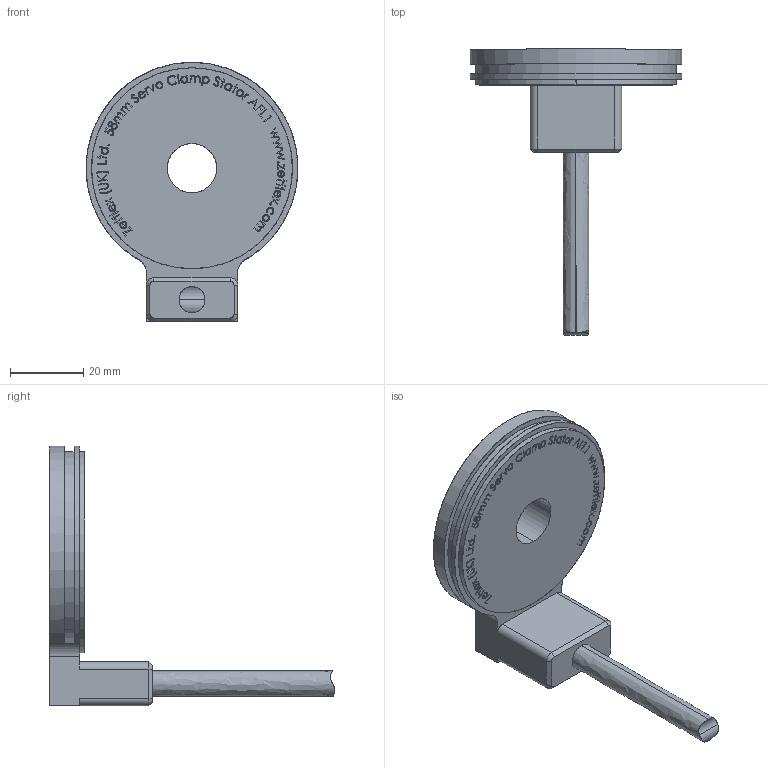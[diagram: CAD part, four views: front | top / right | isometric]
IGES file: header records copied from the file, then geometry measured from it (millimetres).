
Start section: SolidWorks IGES file using analytic representation for surfaces
Global section: file name: C:\Zettlex Data\Mechanical Drawings\1615\58mm Servo Clamp Stator AFL1 Rev 1-0.IGS; native system: SolidWorks 2015; preprocessor: SolidWorks 2015; author: Nigel; date: 150908.085917; units: millimetre
Bounding box: 58 x 78.2 x 71 mm (x, y, z)
Surface area: 11072.3 mm2 (no closed solid volume)
Topology: 0 solids, 0 shells, 726 faces, 8454 edges, 8454 vertices
Faces by surface type: bspline 696, revolution 30
